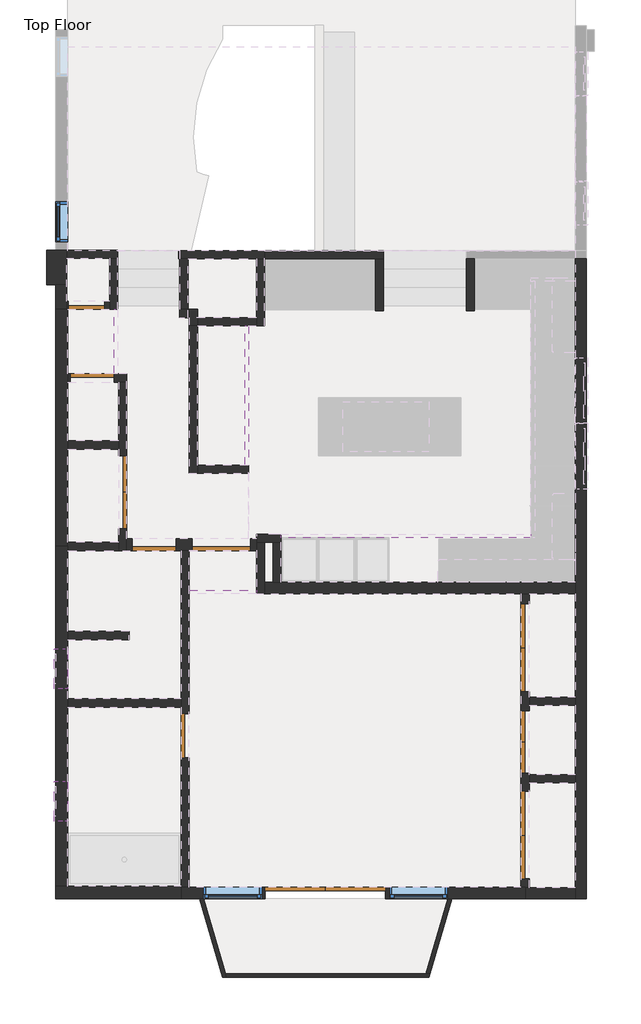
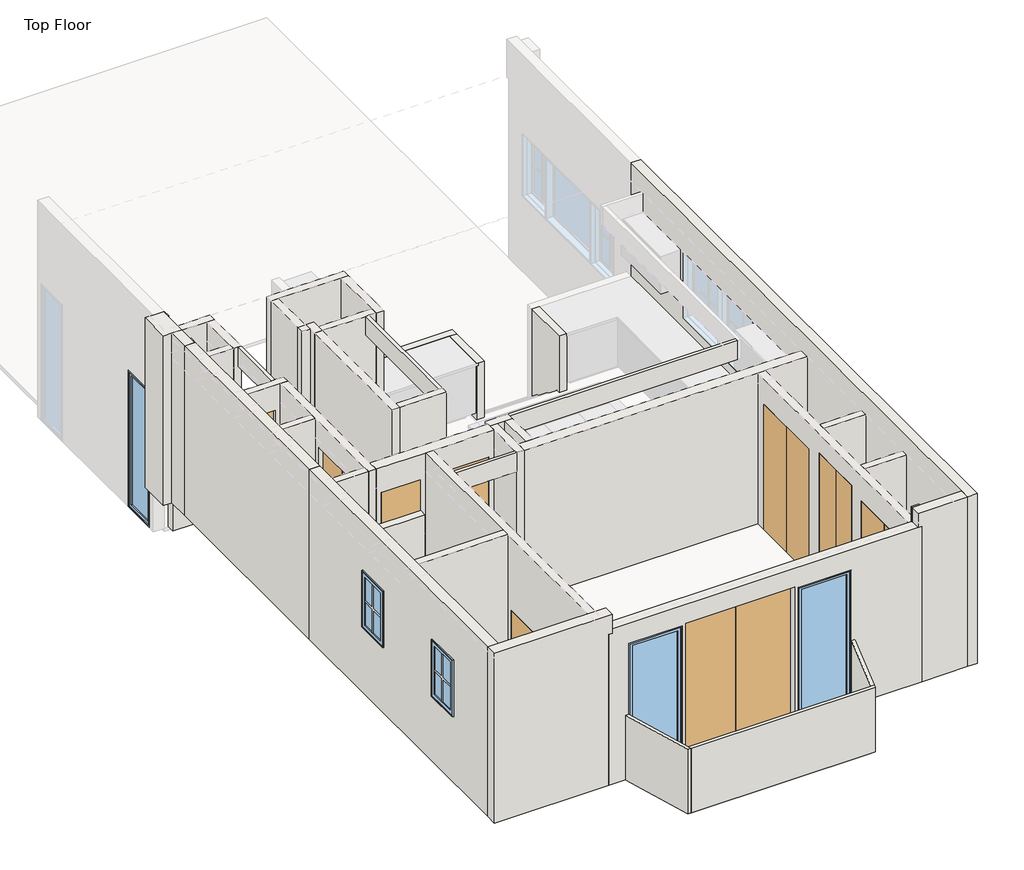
# One storey, part 1 of 3: 44 walls, 10 doors, 5 windows.
"""IFC4 building model written with IfcOpenShell, lengths in millimetres."""

from ifc_helpers import new_model, si_unit, frame, origin, place, context, project, spatial, polyline, outline, extrude, faceted_brep, transform, mapped, element, save
from components import door_e654672a, door_2_e783abe8, door_b2eef15f, door_c73edc89, door_aef79686, door_2963ea5e, door_8ab78930, door_12ea99da, door_5da72c95, default_1_1963fb7e, default_1_7b61a2f6, default_1_9abc27e4, default_1_fa66b400

model = new_model("IFC4")

# Units and contexts
model_context = context("Model", 3, world=origin())
ifc_project = project(units=[si_unit("LENGTHUNIT", "METRE", prefix="MILLI")], contexts=[model_context])

# Site, building, storey
site = spatial("IfcSite", under=ifc_project)
building = spatial("IfcBuilding", under=site)
storey = spatial("IfcBuildingStorey", under=building, Name="Top Floor", Elevation=2743.2)

# Doors
placement = place(None, origin())
door_shape = door_e654672a(model_context)
element("IfcDoor", 1, ObjectType="Planitar - Single Door_Flush Panel : 1'-8\" x 6'-8\" 45", at=placement, inside=storey, context=model_context, shape_type="MappedRepresentation", body=[
    mapped(door_shape, transform((-5683.25, 2870.2, 3505.2), x_axis=(-1.0, 0.0, 0.0), y_axis=(0.0, -1.0, 0.0), z_axis=(0.0, 0.0, 1.0))),
])
door_2_shape = door_2_e783abe8(model_context)
element("IfcDoor", 2, ObjectType="Planitar - Double Door_Flush Panel : 2", at=placement, inside=storey, context=model_context, shape_type="MappedRepresentation", body=[
    mapped(door_2_shape, transform((419.1, -3201.9875, 3505.2), x_axis=(0.0, 1.0, 0.0), y_axis=(-1.0, 0.0, 0.0), z_axis=(0.0, 0.0, 1.0))),
])
door_3_shape = door_b2eef15f(model_context)
element("IfcDoor", 3, ObjectType="Planitar - Single Door_Flush Panel : 2'-0\" x 6'-8\"", at=placement, inside=storey, context=model_context, shape_type="MappedRepresentation", body=[
    mapped(door_3_shape, transform((-5607.05, 1860.55, 3505.2), x_axis=(-1.0, 0.0, 0.0), y_axis=(0.0, -1.0, 0.0), z_axis=(0.0, 0.0, 1.0))),
])
door_4_shape = door_c73edc89(model_context)
element("IfcDoor", 4, ObjectType="Planitar - Single Door_Flush Panel : 2'-0\" x 6'-8\"", at=placement, inside=storey, context=model_context, shape_type="MappedRepresentation", body=[
    mapped(door_4_shape, transform((-4743.45, -457.2, 3505.2), x_axis=(1.0, 0.0, 0.0), y_axis=(0.0, 1.0, 0.0), z_axis=(0.0, 0.0, 1.0))),
])
door_5_shape = door_aef79686(model_context)
element("IfcDoor", 5, ObjectType="Planitar - Single Door_Flush Panel : 2'-0\" x 6'-8\"", at=placement, inside=storey, context=model_context, shape_type="MappedRepresentation", body=[
    mapped(door_5_shape, transform((-4311.65, -3117.85, 2743.2), x_axis=(0.0, 1.0, 0.0), y_axis=(-1.0, 0.0, 0.0), z_axis=(0.0, 0.0, 1.0))),
])
door_6_shape = door_2963ea5e(model_context)
element("IfcDoor", 6, ObjectType="Planitar - Single Door_Flush Panel : 2'-8\" x 6'-8\"", at=placement, inside=storey, context=model_context, shape_type="MappedRepresentation", body=[
    mapped(door_6_shape, transform((-3810.0, -457.2, 3505.2), x_axis=(-1.0, 0.0, 0.0), y_axis=(0.0, -1.0, 0.0), z_axis=(0.0, 0.0, 1.0))),
])
door_7_shape = door_8ab78930(model_context)
element("IfcDoor", 7, ObjectType="Planitar - Double Door_Flush Panel : 3'-4\" x 6'-8\"", at=placement, inside=storey, context=model_context, shape_type="MappedRepresentation", body=[
    mapped(door_7_shape, transform((-5181.6, 268.2875, 3505.2), x_axis=(0.0, -1.0, 0.0), y_axis=(1.0, 0.0, 0.0), z_axis=(0.0, 0.0, 1.0))),
])
door_8_shape = door_12ea99da(model_context)
element("IfcDoor", 8, ObjectType="Planitar - Double Door_Flush Panel : 4'-0\" x 6'-8\"", at=placement, inside=storey, context=model_context, shape_type="MappedRepresentation", body=[
    mapped(door_8_shape, transform((419.1, -4496.196875, 3505.2), x_axis=(0.0, 1.0, 0.0), y_axis=(-1.0, 0.0, 0.0), z_axis=(0.0, 0.0, 1.0))),
])
element("IfcDoor", 9, ObjectType="Planitar - Double Door_Flush Panel : 4'-0\" x 6'-8\"", at=placement, inside=storey, context=model_context, shape_type="MappedRepresentation", body=[
    mapped(door_8_shape, transform((419.1, -1891.109375, 3505.2), x_axis=(0.0, 1.0, 0.0), y_axis=(-1.0, 0.0, 0.0), z_axis=(0.0, 0.0, 1.0))),
])
door_9_shape = door_5da72c95(model_context)
element("IfcDoor", 10, ObjectType="Planitar - Double Door_Flush Panel : 5'-6\" x 6'-8\"", at=placement, inside=storey, context=model_context, shape_type="MappedRepresentation", body=[
    mapped(door_9_shape, transform((-2361.009375, -5302.25, 3505.2), x_axis=(1.0, 0.0, 0.0), y_axis=(0.0, 1.0, 0.0), z_axis=(0.0, 0.0, 1.0))),
])

# Walls
element("IfcWall", 11, ObjectType="Planitar - Generic 6 1/2\"", at=placement, inside=storey, context=model_context, shape_type="Brep", body=[
    faceted_brep([(-5949.95, -482.6, 3505.2), (-5949.95, -425.45, 3505.2), (-5949.95, 869.95, 3505.2), (-5949.95, 984.25, 3505.2), (-5949.95, 1803.4, 3505.2), (-5949.95, 1917.7, 3505.2), (-5949.95, 2813.05, 3505.2), (-5949.95, 2813.05, 5943.6), (-5949.95, 2813.05, 6248.4), (-5949.95, -482.6, 6248.4), (-6115.05, -482.6, 3505.2), (-6115.05, -482.6, 6248.4), (-6115.05, 2813.05, 6248.4), (-6115.05, 2813.05, 3505.2), (-5962.65, 2813.05, 3505.2), (-5962.65, 2813.05, 6248.4)], [[[0, 1, 2, 3, 4, 5, 6, 7, 8, 9]], [[10, 11, 12, 13]], [[6, 5, 4, 3, 2, 1, 0, 10, 13, 14]], [[9, 8, 15, 12, 11]], [[0, 9, 11, 10]], [[8, 7, 6, 14, 13, 12, 15]]]),
])
element("IfcWall", 12, ObjectType="Planitar - Generic 6\"", at=placement, inside=storey, context=model_context, shape_type="Brep", body=[
    faceted_brep([(1117.6, -5232.4, 3505.2), (476.25, -5232.4, 3505.2), (419.1, -5232.4, 3505.2), (419.1, -5232.4, 6014.4587629), (361.95, -5232.4, 6014.4587629), (361.95, -5232.4, 6248.4), (476.25, -5232.4, 6248.4), (1117.6, -5232.4, 6248.4), (1117.6, -5384.8, 3505.2), (1117.6, -5384.8, 6248.4), (361.95, -5384.8, 6248.4), (361.95, -5384.8, 6014.4587629), (419.1, -5384.8, 6014.4587629), (419.1, -5384.8, 3505.2)], [[[0, 1, 2, 3, 4, 5, 6, 7]], [[8, 9, 10, 11, 12, 13]], [[2, 1, 0, 8, 13]], [[7, 6, 5, 10, 9]], [[0, 7, 9, 8]], [[3, 2, 13, 12]], [[11, 4, 3, 12]], [[5, 4, 11, 10]]]),
])
element("IfcWall", 13, ObjectType="Planitar - Generic 6 1/2\"", at=placement, inside=storey, context=model_context, shape_type="Brep", body=[
    faceted_brep([(-5949.95, -5207.0, 3505.2), (-5949.95, -2717.8, 3505.2), (-5949.95, -2603.5, 3505.2), (-5949.95, -1778.0, 3505.2), (-5949.95, -1663.7, 3505.2), (-5949.95, -539.75, 3505.2), (-5949.95, -482.6, 3505.2), (-5949.95, -482.6, 6248.4), (-5949.95, -5207.0, 6248.4), (-5949.95, -3746.5, 5486.4), (-5949.95, -3746.5, 4572.0), (-5949.95, -4305.3, 4572.0), (-5949.95, -4305.3, 5486.4), (-5949.95, -2463.8, 4572.0), (-5949.95, -2463.8, 5486.4), (-5949.95, -1905.0, 5486.4), (-5949.95, -1905.0, 4572.0), (-6115.05, -482.6, 3505.2), (-6115.05, -5207.0, 3505.2), (-6115.05, -5207.0, 6248.4), (-6115.05, -482.6, 6248.4), (-6115.05, -3746.5, 4572.0), (-6115.05, -3746.5, 5486.4), (-6115.05, -4305.3, 5486.4), (-6115.05, -4305.3, 4572.0), (-6115.05, -2463.8, 5486.4), (-6115.05, -2463.8, 4572.0), (-6115.05, -1905.0, 4572.0), (-6115.05, -1905.0, 5486.4)], [[[0, 1, 2, 3, 4, 5, 6, 7, 8], [9, 10, 11, 12], [13, 14, 15, 16]], [[17, 18, 19, 20], [21, 22, 23, 24], [25, 26, 27, 28]], [[6, 5, 4, 3, 2, 1, 0, 18, 17]], [[7, 6, 17, 20]], [[8, 7, 20, 19]], [[0, 8, 19, 18]], [[10, 9, 22, 21]], [[11, 10, 21, 24]], [[12, 11, 24, 23]], [[9, 12, 23, 22]], [[25, 14, 13, 26]], [[26, 13, 16, 27]], [[27, 16, 15, 28]], [[14, 25, 28, 15]]]),
])
element("IfcWall", 14, ObjectType="Planitar - Generic 6\"", at=placement, inside=storey, context=model_context, shape_type="Brep", body=[
    faceted_brep([(1117.6, 3517.9, 3505.2), (1117.6, -977.9, 3505.2), (1117.6, -1143.0, 3505.2), (1117.6, -2578.1, 3505.2), (1117.6, -2692.4, 3505.2), (1117.6, -3657.6, 3505.2), (1117.6, -3771.9, 3505.2), (1117.6, -5232.4, 3505.2), (1117.6, -5384.8, 3505.2), (1117.6, -5384.8, 6248.4), (1117.6, -5232.4, 6248.4), (1117.6, 3524.25, 6248.4), (1117.6, 3524.25, 4419.6), (1117.6, 3517.9, 4419.6), (1117.6, 312.9359375, 5638.8), (1117.6, 312.9359375, 4572.0), (1117.6, 2141.7359375, 4572.0), (1117.6, 2141.7359375, 5638.8), (1270.0, -5384.8, 3505.2), (1270.0, -2863.85, 3505.2), (1270.0, 3517.9, 3505.2), (1270.0, 3517.9, 4419.6), (1270.0, 3524.25, 4419.6), (1270.0, 3524.25, 6248.4), (1270.0, -5384.8, 6248.4), (1270.0, 312.9359375, 4572.0), (1270.0, 312.9359375, 5638.8), (1270.0, 2141.7359375, 5638.8), (1270.0, 2141.7359375, 4572.0)], [[[0, 1, 2, 3, 4, 5, 6, 7, 8, 9, 10, 11, 12, 13], [14, 15, 16, 17]], [[18, 19, 20, 21, 22, 23, 24], [25, 26, 27, 28]], [[8, 7, 6, 5, 4, 3, 2, 1, 0, 20, 19, 18]], [[9, 24, 23, 11, 10]], [[9, 8, 18, 24]], [[21, 13, 12, 22]], [[0, 13, 21, 20]], [[28, 16, 15, 25]], [[15, 14, 26, 25]], [[17, 27, 26, 14]], [[16, 28, 27, 17]], [[12, 11, 23, 22]]]),
])
element("IfcWall", 15, ObjectType="Planitar - Generic 6\"", at=placement, inside=storey, context=model_context, shape_type="Brep", body=[
    faceted_brep([(-5962.65, 2813.05, 3505.2), (-5962.65, 2927.35, 3505.2), (-5962.65, 3155.95, 3505.2), (-5962.65, 3155.95, 6248.4), (-5962.65, 2927.35, 6248.4), (-5962.65, 2813.05, 6248.4), (-6115.05, 2813.05, 3505.2), (-6115.05, 2813.05, 6248.4), (-6115.05, 3155.95, 6248.4), (-6115.05, 3155.95, 3505.2)], [[[0, 1, 2, 3, 4, 5]], [[6, 7, 8, 9]], [[2, 1, 0, 6, 9]], [[3, 2, 9, 8]], [[5, 4, 3, 8, 7]], [[0, 5, 7, 6]]]),
])
element("IfcWall", 16, ObjectType="Planitar - Generic 4 1/2\"", at=placement, inside=storey, context=model_context, shape_type="Brep", body=[
    faceted_brep([(-5886.45, 3524.25, 2743.2), (-5251.45, 3524.25, 2743.2), (-5251.45, 3524.25, 3505.2), (-5251.45, 3524.25, 5943.6), (-5365.75, 3524.25, 5943.6), (-5949.95, 3524.25, 5943.6), (-5949.95, 3524.25, 6248.4), (-5962.65, 3524.25, 6248.4), (-5962.65, 3524.25, 3505.2), (-5886.45, 3524.25, 3505.2), (-5886.45, 3638.55, 2743.2), (-5886.45, 3638.55, 3505.2), (-5962.65, 3638.55, 3505.2), (-5962.65, 3638.55, 6248.4), (-5949.95, 3638.55, 6248.4), (-5949.95, 3638.55, 5943.6), (-5251.45, 3638.55, 5943.6), (-5251.45, 3638.55, 2743.2), (-5886.45, 3581.4, 2743.2), (-5886.45, 3606.8, 2743.2), (-5886.45, 3632.2, 2743.2)], [[[0, 1, 2, 3, 4, 5, 6, 7, 8, 9]], [[10, 11, 12, 13, 14, 15, 16, 17]], [[1, 0, 18, 19, 20, 10, 17]], [[3, 2, 1, 17, 16]], [[8, 12, 11, 9]], [[0, 9, 11, 10, 20, 19, 18]], [[8, 7, 13, 12]], [[7, 6, 14, 13]], [[14, 6, 5, 15]], [[5, 4, 3, 16, 15]]]),
])
element("IfcWall", 17, ObjectType="Planitar - Generic 4 1/2\"", at=placement, inside=storey, context=model_context, shape_type="Brep", body=[
    faceted_brep([(-5365.75, 3524.25, 3505.2), (-5365.75, 2927.35, 3505.2), (-5365.75, 2813.05, 3505.2), (-5365.75, 2813.05, 5943.6), (-5365.75, 2927.35, 5943.6), (-5365.75, 3524.25, 5943.6), (-5251.45, 3524.25, 3505.2), (-5251.45, 3524.25, 5943.6), (-5251.45, 2813.05, 5943.6), (-5251.45, 2813.05, 5638.8), (-5251.45, 2813.05, 3505.2), (-5302.25, 2813.05, 5943.6)], [[[0, 1, 2, 3, 4, 5]], [[6, 7, 8, 9, 10]], [[2, 1, 0, 6, 10]], [[0, 5, 7, 6]], [[2, 10, 9, 8, 11, 3]], [[5, 4, 3, 11, 8, 7]]]),
])
element("IfcWall", 18, ObjectType="Planitar - Generic 4 1/2\"", at=placement, inside=storey, context=model_context, shape_type="Brep", body=[
    faceted_brep([(-5962.65, 2927.35, 3505.2), (-5962.65, 2927.35, 6248.4), (-5949.95, 2927.35, 6248.4), (-5949.95, 2927.35, 5943.6), (-5365.75, 2927.35, 5943.6), (-5365.75, 2927.35, 3505.2), (-5429.25, 2927.35, 3505.2), (-5429.25, 2927.35, 5537.2), (-5937.25, 2927.35, 5537.2), (-5937.25, 2927.35, 3505.2), (-5962.65, 2813.05, 6248.4), (-5962.65, 2813.05, 3505.2), (-5949.95, 2813.05, 3505.2), (-5937.25, 2813.05, 3505.2), (-5937.25, 2813.05, 5537.2), (-5429.25, 2813.05, 5537.2), (-5429.25, 2813.05, 3505.2), (-5365.75, 2813.05, 3505.2), (-5365.75, 2813.05, 5943.6), (-5949.95, 2813.05, 5943.6), (-5949.95, 2813.05, 6248.4)], [[[0, 1, 2, 3, 4, 5, 6, 7, 8, 9]], [[10, 11, 12, 13, 14, 15, 16, 17, 18, 19, 20]], [[5, 17, 16, 6]], [[11, 0, 9, 13, 12]], [[1, 0, 11, 10]], [[8, 14, 13, 9]], [[14, 8, 7, 15]], [[15, 7, 6, 16]], [[17, 5, 4, 18]], [[1, 10, 20, 2]], [[2, 20, 19, 3]], [[4, 3, 19, 18]]]),
])
element("IfcWall", 19, ObjectType="Planitar - Generic 4 1/2\"", at=placement, inside=storey, context=model_context, shape_type="Brep", body=[
    faceted_brep([(-4406.9, 3517.9, 2743.2), (-3263.9, 3517.9, 2743.2), (-3263.9, 3517.9, 3505.2), (-3206.75, 3517.9, 3505.2), (-3206.75, 3517.9, 4419.6), (-3206.75, 3517.9, 5943.6), (-3321.05, 3517.9, 5943.6), (-4273.55, 3517.9, 5943.6), (-4387.85, 3517.9, 5943.6), (-4387.85, 3517.9, 3505.2), (-4406.9, 3517.9, 3505.2), (-4406.9, 3632.2, 2743.2), (-4406.9, 3632.2, 3505.2), (-4387.85, 3632.2, 3505.2), (-4387.85, 3632.2, 5943.6), (-3206.75, 3632.2, 5943.6), (-3206.75, 3632.2, 4419.6), (-3206.75, 3632.2, 3505.2), (-3263.9, 3632.2, 3505.2), (-3263.9, 3632.2, 2743.2)], [[[0, 1, 2, 3, 4, 5, 6, 7, 8, 9, 10]], [[11, 12, 13, 14, 15, 16, 17, 18, 19]], [[1, 0, 11, 19]], [[2, 1, 19, 18]], [[3, 17, 16, 15, 5, 4]], [[9, 13, 12, 10]], [[0, 10, 12, 11]], [[9, 8, 14, 13]], [[17, 3, 2, 18]], [[8, 7, 6, 5, 15, 14]]]),
])
element("IfcWall", 20, ObjectType="Planitar - Generic 4 1/2\"", at=placement, inside=storey, context=model_context, shape_type="Brep", body=[
    faceted_brep([(-3321.05, 3517.9, 5943.6), (-3321.05, 3517.9, 3505.2), (-3321.05, 2698.75, 3505.2), (-3321.05, 2584.45, 3505.2), (-3321.05, 2584.45, 5943.6), (-3321.05, 2698.75, 5943.6), (-3206.75, 3517.9, 3505.2), (-3206.75, 3517.9, 5943.6), (-3206.75, 2584.45, 5943.6), (-3206.75, 2584.45, 3505.2), (-3263.9, 3517.9, 3505.2)], [[[0, 1, 2, 3, 4, 5]], [[6, 7, 8, 9]], [[3, 2, 1, 10, 6, 9]], [[4, 3, 9, 8]], [[0, 7, 6, 10, 1]], [[0, 5, 4, 8, 7]]]),
])
element("IfcWall", 21, ObjectType="Planitar - Generic 4 1/2\"", at=placement, inside=storey, context=model_context, shape_type="Brep", body=[
    faceted_brep([(-3321.05, 2698.75, 3505.2), (-4140.2, 2698.75, 3505.2), (-4140.2, 2698.75, 5943.6), (-3321.05, 2698.75, 5943.6), (-3321.05, 2584.45, 3505.2), (-3321.05, 2584.45, 5943.6), (-3429.0, 2584.45, 5943.6), (-3479.8, 2584.45, 5943.6), (-4140.2, 2584.45, 5943.6), (-4140.2, 2584.45, 3505.2)], [[[0, 1, 2, 3]], [[4, 5, 6, 7, 8, 9]], [[1, 0, 4, 9]], [[0, 3, 5, 4]], [[2, 1, 9, 8]], [[3, 2, 8, 7, 6, 5]]]),
])
element("IfcWall", 22, ObjectType="Planitar - Generic 4 1/2\"", at=placement, inside=storey, context=model_context, shape_type="Brep", body=[
    faceted_brep([(-4140.2, 2584.45, 3505.2), (-4140.2, 2698.75, 3505.2), (-4140.2, 2813.05, 3505.2), (-4140.2, 2813.05, 5943.6), (-4140.2, 2698.75, 5943.6), (-4140.2, 2584.45, 5943.6), (-4254.5, 2584.45, 3505.2), (-4254.5, 2584.45, 5943.6), (-4254.5, 2698.75, 5943.6), (-4254.5, 2813.05, 5943.6), (-4254.5, 2813.05, 3505.2), (-4254.5, 2698.75, 3505.2)], [[[0, 1, 2, 3, 4, 5]], [[6, 7, 8, 9, 10, 11]], [[2, 1, 0, 6, 11, 10]], [[0, 5, 7, 6]], [[3, 2, 10, 9]], [[5, 4, 3, 9, 8, 7]]]),
])
element("IfcWall", 23, ObjectType="Planitar - Generic 4 1/2\"", at=placement, inside=storey, context=model_context, shape_type="Brep", body=[
    faceted_brep([(-4387.85, 3517.9, 3505.2), (-4387.85, 2813.05, 3505.2), (-4387.85, 2813.05, 5943.6), (-4387.85, 3517.9, 5943.6), (-4273.55, 3517.9, 3505.2), (-4273.55, 3517.9, 5943.6), (-4273.55, 2813.05, 5943.6), (-4273.55, 2813.05, 3505.2), (-4292.6, 3517.9, 3505.2)], [[[0, 1, 2, 3]], [[4, 5, 6, 7]], [[1, 0, 8, 4, 7]], [[0, 3, 5, 4, 8]], [[2, 1, 7, 6]], [[3, 2, 6, 5]]]),
])
element("IfcWall", 24, ObjectType="Planitar - Generic 4 1/2\"", at=placement, inside=storey, context=model_context, shape_type="Brep", body=[
    faceted_brep([(-4387.85, 2698.75, 3505.2), (-4254.5, 2698.75, 3505.2), (-4254.5, 2698.75, 5943.6), (-4387.85, 2698.75, 5943.6), (-4387.85, 2813.05, 3505.2), (-4387.85, 2813.05, 5943.6), (-4273.55, 2813.05, 5943.6), (-4254.5, 2813.05, 5943.6), (-4254.5, 2813.05, 3505.2), (-4273.55, 2813.05, 3505.2)], [[[0, 1, 2, 3]], [[4, 5, 6, 7, 8, 9]], [[1, 0, 4, 9, 8]], [[0, 3, 5, 4]], [[2, 1, 8, 7]], [[3, 2, 7, 6, 5]]]),
])
element("IfcWall", 25, ObjectType="Planitar - Generic 4 1/2\"", at=placement, inside=storey, context=model_context, shape_type="Brep", body=[
    faceted_brep([(-4254.5, 2584.45, 3505.2), (-4254.5, 533.4, 3505.2), (-4254.5, 533.4, 5943.6), (-4254.5, 2584.45, 5943.6), (-4140.2, 2584.45, 3505.2), (-4140.2, 2584.45, 5943.6), (-4140.2, 647.7, 5943.6), (-4140.2, 533.4, 5943.6), (-4140.2, 533.4, 3505.2), (-4140.2, 647.7, 3505.2)], [[[0, 1, 2, 3]], [[4, 5, 6, 7, 8, 9]], [[1, 0, 4, 9, 8]], [[0, 3, 5, 4]], [[2, 1, 8, 7]], [[3, 2, 7, 6, 5]]]),
])
element("IfcWall", 26, ObjectType="Planitar - Generic 4 1/2\"", at=placement, inside=storey, context=model_context, shape_type="Brep", body=[
    faceted_brep([(-4140.2, 533.4, 3505.2), (-3429.0, 533.4, 3505.2), (-3429.0, 533.4, 5943.6), (-4140.2, 533.4, 5943.6), (-4140.2, 647.7, 3505.2), (-4140.2, 647.7, 5943.6), (-3479.8, 647.7, 5943.6), (-3429.0, 647.7, 5943.6), (-3429.0, 647.7, 5638.8), (-3429.0, 647.7, 3505.2)], [[[0, 1, 2, 3]], [[4, 5, 6, 7, 8, 9]], [[1, 0, 4, 9]], [[0, 3, 5, 4]], [[2, 1, 9, 8, 7]], [[3, 2, 7, 6, 5]]]),
])
element("IfcWall", 27, ObjectType="Planitar - Generic 4 1/2\"", at=placement, inside=storey, context=model_context, shape_type="SweptSolid", body=[
    extrude(outline(polyline([(-5238.75, 869.95), (-5949.95, 869.95), (-5949.95, 984.25), (-5238.75, 984.25), (-5238.75, 869.95)])), frame((0.0, 0.0, 3505.2), z_axis=(0.0, 0.0, 1.0), x_axis=(1.0, 0.0, 0.0)), (0.0, 0.0, 1.0), 2438.4),
])
element("IfcWall", 28, ObjectType="Planitar - Generic 4 1/2\"", at=placement, inside=storey, context=model_context, shape_type="Brep", body=[
    faceted_brep([(-5949.95, 1803.4, 5943.6), (-5949.95, 1803.4, 3505.2), (-5911.85, 1803.4, 3505.2), (-5911.85, 1803.4, 5537.2), (-5302.25, 1803.4, 5537.2), (-5302.25, 1803.4, 3505.2), (-5238.75, 1803.4, 3505.2), (-5124.45, 1803.4, 3505.2), (-5124.45, 1803.4, 5943.6), (-5238.75, 1803.4, 5943.6), (-5949.95, 1917.7, 3505.2), (-5949.95, 1917.7, 5943.6), (-5302.25, 1917.7, 5943.6), (-5251.45, 1917.7, 5943.6), (-5124.45, 1917.7, 5943.6), (-5124.45, 1917.7, 3505.2), (-5302.25, 1917.7, 3505.2), (-5302.25, 1917.7, 5537.2), (-5911.85, 1917.7, 5537.2), (-5911.85, 1917.7, 3505.2)], [[[0, 1, 2, 3, 4, 5, 6, 7, 8, 9]], [[10, 11, 12, 13, 14, 15, 16, 17, 18, 19]], [[1, 10, 19, 2]], [[15, 7, 6, 5, 16]], [[1, 0, 11, 10]], [[8, 7, 15, 14]], [[18, 3, 2, 19]], [[3, 18, 17, 4]], [[4, 17, 16, 5]], [[0, 9, 8, 14, 13, 12, 11]]]),
])
element("IfcWall", 29, ObjectType="Planitar - Generic 4 1/2\"", at=placement, inside=storey, context=model_context, shape_type="Brep", body=[
    faceted_brep([(-5238.75, 1803.4, 5943.6), (-5238.75, 1803.4, 3505.2), (-5238.75, 984.25, 3505.2), (-5238.75, 869.95, 3505.2), (-5238.75, 776.2875, 3505.2), (-5238.75, 776.2875, 5537.2), (-5238.75, -239.7125, 5537.2), (-5238.75, -239.7125, 3505.2), (-5238.75, -425.45, 3505.2), (-5238.75, -539.75, 3505.2), (-5238.75, -539.75, 5943.6), (-5238.75, -425.45, 5943.6), (-5238.75, 869.95, 5943.6), (-5238.75, 984.25, 5943.6), (-5124.45, 1803.4, 3505.2), (-5124.45, 1803.4, 5943.6), (-5124.45, -374.65, 5943.6), (-5124.45, -539.75, 5943.6), (-5124.45, -539.75, 3505.2), (-5124.45, -374.65, 3505.2), (-5124.45, -239.7125, 3505.2), (-5124.45, -239.7125, 5537.2), (-5124.45, 776.2875, 5537.2), (-5124.45, 776.2875, 3505.2)], [[[0, 1, 2, 3, 4, 5, 6, 7, 8, 9, 10, 11, 12, 13]], [[14, 15, 16, 17, 18, 19, 20, 21, 22, 23]], [[1, 14, 23, 4, 3, 2]], [[18, 9, 8, 7, 20, 19]], [[1, 0, 15, 14]], [[10, 9, 18, 17]], [[6, 21, 20, 7]], [[21, 6, 5, 22]], [[22, 5, 4, 23]], [[0, 13, 12, 11, 10, 17, 16, 15]]]),
])
element("IfcWall", 30, ObjectType="Planitar - Generic 4 1/2\"", at=placement, inside=storey, context=model_context, shape_type="Brep", body=[
    faceted_brep([(-5949.95, -539.75, 3505.2), (-5238.75, -539.75, 3505.2), (-5238.75, -539.75, 5943.6), (-5949.95, -539.75, 5943.6), (-5949.95, -425.45, 3505.2), (-5949.95, -425.45, 5943.6), (-5238.75, -425.45, 5943.6), (-5238.75, -425.45, 3505.2), (-5949.95, -482.6, 3505.2)], [[[0, 1, 2, 3]], [[4, 5, 6, 7]], [[1, 0, 8, 4, 7]], [[0, 3, 5, 4, 8]], [[2, 1, 7, 6]], [[3, 2, 6, 5]]]),
])
element("IfcWall", 31, ObjectType="Planitar - Generic 4 1/2\"", at=placement, inside=storey, context=model_context, shape_type="Brep", body=[
    faceted_brep([(-3321.05, -425.45, 3505.2), (-3206.75, -425.45, 3505.2), (-3092.45, -425.45, 3505.2), (-2978.15, -425.45, 3505.2), (-2978.15, -425.45, 5943.6), (-3092.45, -425.45, 5943.6), (-3206.75, -425.45, 5943.6), (-3321.05, -425.45, 5943.6), (-3321.05, -311.15, 3505.2), (-3321.05, -311.15, 5943.6), (-2978.15, -311.15, 5943.6), (-2978.15, -311.15, 5638.8), (-2978.15, -311.15, 3505.2), (-3321.05, -374.65, 3505.2), (-3321.05, -374.65, 5943.6), (-2978.15, -361.95, 5943.6)], [[[0, 1, 2, 3, 4, 5, 6, 7]], [[8, 9, 10, 11, 12]], [[3, 2, 1, 0, 13, 8, 12]], [[0, 7, 14, 9, 8, 13]], [[3, 12, 11, 10, 15, 4]], [[7, 6, 5, 4, 15, 10, 9, 14]]]),
])
element("IfcWall", 32, ObjectType="Planitar - Generic 4 1/2\"", at=placement, inside=storey, context=model_context, shape_type="SweptSolid", body=[
    extrude(outline(polyline([(-3092.45, -977.9), (-3092.45, -425.45), (-2978.15, -425.45), (-2978.15, -977.9), (-3092.45, -977.9)])), frame((0.0, 0.0, 3505.2), z_axis=(0.0, 0.0, 1.0), x_axis=(1.0, 0.0, 0.0)), (0.0, 0.0, 1.0), 2438.4),
])
element("IfcWall", 33, ObjectType="Planitar - Generic 4 1/2\"", at=placement, inside=storey, context=model_context, shape_type="Brep", body=[
    faceted_brep([(-3206.75, -1143.0, 5943.6), (-3206.75, -1143.0, 3505.2), (-3206.75, -977.9, 3505.2), (-3206.75, -425.45, 3505.2), (-3206.75, -425.45, 5943.6), (-3206.75, -977.9, 5943.6), (-3321.05, -1143.0, 3505.2), (-3321.05, -1143.0, 5638.8), (-3321.05, -1143.0, 5943.6), (-3321.05, -1092.2, 5943.6), (-3321.05, -539.75, 5943.6), (-3321.05, -425.45, 5943.6), (-3321.05, -425.45, 3505.2), (-3321.05, -539.75, 3505.2)], [[[0, 1, 2, 3, 4, 5]], [[6, 7, 8, 9, 10, 11, 12, 13]], [[3, 2, 1, 6, 13, 12]], [[4, 3, 12, 11]], [[0, 8, 7, 6, 1]], [[0, 5, 4, 11, 10, 9, 8]]]),
])
element("IfcWall", 34, ObjectType="Planitar - Generic 4 1/2\"", at=placement, inside=storey, context=model_context, shape_type="Brep", body=[
    faceted_brep([(-4368.8, -5219.7, 5943.6), (-4368.8, -5207.0, 5943.6), (-4368.8, -2717.8, 5943.6), (-4368.8, -2603.5, 5943.6), (-4368.8, -539.75, 5943.6), (-4368.8, -539.75, 3505.2), (-4368.8, -2603.5, 3505.2), (-4368.8, -2717.8, 3505.2), (-4368.8, -2813.05, 3505.2), (-4368.8, -2813.05, 4775.2), (-4368.8, -3422.65, 4775.2), (-4368.8, -3422.65, 3505.2), (-4368.8, -5207.0, 3505.2), (-4368.8, -5219.7, 3505.2), (-4254.5, -539.75, 5943.6), (-4254.5, -1092.2, 5943.6), (-4254.5, -1143.0, 5943.6), (-4254.5, -5219.7, 5943.6), (-4254.5, -5219.7, 3505.2), (-4254.5, -3422.65, 3505.2), (-4254.5, -3422.65, 4775.2), (-4254.5, -2813.05, 4775.2), (-4254.5, -2813.05, 3505.2), (-4254.5, -539.75, 3505.2), (-4311.65, -5219.7, 5943.6)], [[[0, 1, 2, 3, 4, 5, 6, 7, 8, 9, 10, 11, 12, 13]], [[14, 15, 16, 17, 18, 19, 20, 21, 22, 23]], [[5, 23, 22, 8, 7, 6]], [[18, 13, 12, 11, 19]], [[4, 3, 2, 1, 0, 24, 17, 16, 15, 14]], [[5, 4, 14, 23]], [[21, 9, 8, 22]], [[9, 21, 20, 10]], [[10, 20, 19, 11]], [[0, 13, 18, 17, 24]]]),
])
element("IfcWall", 35, ObjectType="Planitar - Generic 4 1/2\"", at=placement, inside=storey, context=model_context, shape_type="SweptSolid", body=[
    extrude(outline(polyline([(-4368.8, -2717.8), (-5949.95, -2717.8), (-5949.95, -2603.5), (-4368.8, -2603.5), (-4368.8, -2717.8)])), frame((0.0, 0.0, 3505.2), z_axis=(0.0, 0.0, 1.0), x_axis=(1.0, 0.0, 0.0)), (0.0, 0.0, 1.0), 2438.4),
])
element("IfcWall", 36, ObjectType="Planitar - Generic 7\"", at=placement, inside=storey, context=model_context, shape_type="Brep", body=[
    faceted_brep([(-4368.8, -5207.0, 3505.2), (-5949.95, -5207.0, 3505.2), (-6115.05, -5207.0, 3505.2), (-6115.05, -5207.0, 6248.4), (-5949.95, -5207.0, 6248.4), (-4311.65, -5207.0, 6248.4), (-4311.65, -5207.0, 6014.4587629), (-4311.65, -5207.0, 5943.6), (-4368.8, -5207.0, 5943.6), (-4368.8, -5384.8, 3505.2), (-4368.8, -5384.8, 5943.6), (-4311.65, -5384.8, 5943.6), (-4311.65, -5384.8, 6014.4587629), (-4311.65, -5384.8, 6248.4), (-6115.05, -5384.8, 6248.4), (-6115.05, -5384.8, 3505.2), (-4368.8, -5219.7, 3505.2), (-4311.65, -5219.7, 5943.6), (-4368.8, -5219.7, 5943.6)], [[[0, 1, 2, 3, 4, 5, 6, 7, 8]], [[9, 10, 11, 12, 13, 14, 15]], [[3, 2, 15, 14]], [[2, 1, 0, 16, 9, 15]], [[5, 4, 3, 14, 13]], [[7, 17, 11, 10, 18, 8]], [[5, 13, 12, 11, 17, 7, 6]], [[0, 8, 18, 10, 9, 16]]]),
])
element("IfcWall", 37, ObjectType="Planitar - Generic 6 1/2\"", at=placement, inside=storey, context=model_context, shape_type="Brep", body=[
    faceted_brep([(-4311.65, -5219.7, 6014.4587629), (361.95, -5219.7, 6014.4587629), (419.1, -5219.7, 6014.4587629), (419.1, -5219.7, 3505.2), (361.95, -5219.7, 3505.2), (-658.8125, -5219.7, 3505.2), (-658.8125, -5219.7, 5689.6), (-1471.6125, -5219.7, 5689.6), (-1471.6125, -5219.7, 3505.2), (-1522.809375, -5219.7, 3505.2), (-1522.809375, -5219.7, 5715.0), (-3199.209375, -5219.7, 5715.0), (-3199.209375, -5219.7, 3505.2), (-3244.05625, -5219.7, 3505.2), (-3244.05625, -5219.7, 5689.6), (-4056.85625, -5219.7, 5689.6), (-4056.85625, -5219.7, 3505.2), (-4254.5, -5219.7, 3505.2), (-4368.8, -5219.7, 3505.2), (-4368.8, -5219.7, 5943.6), (-4311.65, -5219.7, 5943.6), (419.1, -5384.8, 6014.4587629), (361.95, -5384.8, 6014.4587629), (-603.0990287, -5384.8, 6014.4587629), (-3924.5283871, -5384.8, 6014.4587629), (-4311.65, -5384.8, 6014.4587629), (-4311.65, -5384.8, 5943.6), (-4368.8, -5384.8, 5943.6), (-4368.8, -5384.8, 3505.2), (-4109.7873952, -5384.8, 3505.2), (-4056.85625, -5384.8, 3505.2), (-4056.85625, -5384.8, 5689.6), (-3244.05625, -5384.8, 5689.6), (-3244.05625, -5384.8, 3505.2), (-3199.209375, -5384.8, 3505.2), (-3199.209375, -5384.8, 5715.0), (-1522.809375, -5384.8, 5715.0), (-1522.809375, -5384.8, 3505.2), (-1471.6125, -5384.8, 3505.2), (-1471.6125, -5384.8, 5689.6), (-658.8125, -5384.8, 5689.6), (-658.8125, -5384.8, 3505.2), (-656.0301739, -5384.8, 3505.2), (-603.0990287, -5384.8, 3505.2), (419.1, -5384.8, 3505.2), (419.1, -5232.4, 3505.2), (419.1, -5232.4, 6014.4587629)], [[[0, 1, 2, 3, 4, 5, 6, 7, 8, 9, 10, 11, 12, 13, 14, 15, 16, 17, 18, 19, 20]], [[21, 22, 23, 24, 25, 26, 27, 28, 29, 30, 31, 32, 33, 34, 35, 36, 37, 38, 39, 40, 41, 42, 43, 44]], [[3, 45, 44, 43, 42, 41, 5, 4]], [[33, 13, 12, 34]], [[18, 17, 16, 30, 29, 28]], [[8, 38, 37, 9]], [[2, 1, 0, 25, 24, 23, 22, 21, 46]], [[3, 2, 46, 21, 44, 45]], [[32, 14, 13, 33]], [[14, 32, 31, 15]], [[15, 31, 30, 16]], [[40, 6, 5, 41]], [[6, 40, 39, 7]], [[7, 39, 38, 8]], [[36, 10, 9, 37]], [[10, 36, 35, 11]], [[11, 35, 34, 12]], [[25, 0, 20, 26]], [[26, 20, 19, 27]], [[19, 18, 28, 27]]]),
])
element("IfcWall", 38, ObjectType="Planitar - Generic 4 1/2\"", at=placement, inside=storey, context=model_context, shape_type="Brep", body=[
    faceted_brep([(476.25, -1143.0, 3505.2), (476.25, -1143.0, 5943.6), (476.25, -2578.1, 5943.6), (476.25, -2692.4, 5943.6), (476.25, -3657.6, 5943.6), (476.25, -3771.9, 5943.6), (476.25, -5207.0, 5943.6), (476.25, -5207.0, 6248.4), (476.25, -5232.4, 6248.4), (476.25, -5232.4, 6014.4587629), (476.25, -5232.4, 3505.2), (476.25, -5105.796875, 3505.2), (476.25, -5105.796875, 5537.2), (476.25, -3886.596875, 5537.2), (476.25, -3886.596875, 3505.2), (476.25, -3771.9, 3505.2), (476.25, -3657.6, 3505.2), (476.25, -3633.7875, 3505.2), (476.25, -3633.7875, 5638.8), (476.25, -2770.1875, 5638.8), (476.25, -2770.1875, 3505.2), (476.25, -2692.4, 3505.2), (476.25, -2578.1, 3505.2), (476.25, -2500.709375, 3505.2), (476.25, -2500.709375, 5537.2), (476.25, -1281.509375, 5537.2), (476.25, -1281.509375, 3505.2), (361.95, -1143.0, 5943.6), (361.95, -1143.0, 3505.2), (361.95, -1281.509375, 3505.2), (361.95, -1281.509375, 5537.2), (361.95, -2500.709375, 5537.2), (361.95, -2500.709375, 3505.2), (361.95, -2770.1875, 3505.2), (361.95, -2770.1875, 5638.8), (361.95, -3633.7875, 5638.8), (361.95, -3633.7875, 3505.2), (361.95, -3886.596875, 3505.2), (361.95, -3886.596875, 5537.2), (361.95, -5105.796875, 5537.2), (361.95, -5105.796875, 3505.2), (361.95, -5219.7, 3505.2), (361.95, -5219.7, 6014.4587629), (361.95, -5232.4, 6014.4587629), (361.95, -5232.4, 6248.4), (361.95, -5207.0, 6248.4), (361.95, -5207.0, 6014.4587629), (361.95, -5207.0, 5943.6), (419.1, -5232.4, 3505.2), (419.1, -5219.7, 3505.2), (419.1, -5219.7, 6014.4587629), (419.1, -5232.4, 6014.4587629)], [[[0, 1, 2, 3, 4, 5, 6, 7, 8, 9, 10, 11, 12, 13, 14, 15, 16, 17, 18, 19, 20, 21, 22, 23, 24, 25, 26]], [[27, 28, 29, 30, 31, 32, 33, 34, 35, 36, 37, 38, 39, 40, 41, 42, 43, 44, 45, 46, 47]], [[10, 48, 49, 41, 40, 11]], [[28, 0, 26, 29]], [[14, 37, 36, 17, 16, 15]], [[32, 23, 22, 21, 20, 33]], [[1, 0, 28, 27]], [[13, 38, 37, 14]], [[38, 13, 12, 39]], [[39, 12, 11, 40]], [[25, 30, 29, 26]], [[30, 25, 24, 31]], [[31, 24, 23, 32]], [[19, 34, 33, 20]], [[34, 19, 18, 35]], [[35, 18, 17, 36]], [[45, 44, 8, 7]], [[45, 7, 6, 47, 46]], [[6, 5, 4, 3, 2, 1, 27, 47]], [[43, 42, 50, 51]], [[48, 10, 9, 51]], [[49, 48, 51, 50]], [[41, 49, 50, 42]], [[9, 8, 44, 43, 51]]]),
])
element("IfcWall", 39, ObjectType="Planitar - Generic 4 1/2\"", at=placement, inside=storey, context=model_context, shape_type="SweptSolid", body=[
    extrude(outline(polyline([(1117.6, -2692.4), (476.25, -2692.4), (476.25, -2578.1), (1117.6, -2578.1), (1117.6, -2692.4)])), frame((0.0, 0.0, 3505.2), z_axis=(0.0, 0.0, 1.0), x_axis=(1.0, 0.0, 0.0)), (0.0, 0.0, 1.0), 2438.4),
])
element("IfcWall", 40, ObjectType="Planitar - Generic 4 1/2\"", at=placement, inside=storey, context=model_context, shape_type="SweptSolid", body=[
    extrude(outline(polyline([(1117.6, -3771.9), (476.25, -3771.9), (476.25, -3657.6), (1117.6, -3657.6), (1117.6, -3771.9)])), frame((0.0, 0.0, 3505.2), z_axis=(0.0, 0.0, 1.0), x_axis=(1.0, 0.0, 0.0)), (0.0, 0.0, 1.0), 2438.4),
])
element("IfcWall", 41, ObjectType="Planitar - Generic 4 1/2\"", at=placement, inside=storey, context=model_context, shape_type="SweptSolid", body=[
    extrude(outline(polyline([(-5092.7, -1778.0), (-5949.95, -1778.0), (-5949.95, -1663.7), (-5092.7, -1663.7), (-5092.7, -1778.0)])), frame((0.0, 0.0, 3505.2), z_axis=(0.0, 0.0, 1.0), x_axis=(1.0, 0.0, 0.0)), (0.0, 0.0, 1.0), 2438.4),
])
element("IfcWall", 42, ObjectType="Planitar - Generic 6 1/2\"", at=placement, inside=storey, context=model_context, shape_type="Brep", body=[
    faceted_brep([(1117.6, -977.9, 3505.2), (-2978.15, -977.9, 3505.2), (-3092.45, -977.9, 3505.2), (-3206.75, -977.9, 3505.2), (-3206.75, -977.9, 5943.6), (-3092.45, -977.9, 5943.6), (-2978.15, -977.9, 5943.6), (1117.6, -977.9, 5943.6), (1117.6, -1143.0, 3505.2), (1117.6, -1143.0, 5943.6), (476.25, -1143.0, 5943.6), (361.95, -1143.0, 5943.6), (-3206.75, -1143.0, 5943.6), (-3206.75, -1143.0, 3505.2), (361.95, -1143.0, 3505.2), (476.25, -1143.0, 3505.2)], [[[0, 1, 2, 3, 4, 5, 6, 7]], [[8, 9, 10, 11, 12, 13, 14, 15]], [[3, 2, 1, 0, 8, 15, 14, 13]], [[0, 7, 9, 8]], [[3, 13, 12, 4]], [[7, 6, 5, 4, 12, 11, 10, 9]]]),
])
element("IfcWall", 43, ObjectType="Planitar - Generic 6 1/2\"", at=placement, inside=storey, context=model_context, shape_type="Brep", body=[
    faceted_brep([(-5124.45, -539.75, 5943.6), (-5124.45, -539.75, 3505.2), (-5048.25, -539.75, 3505.2), (-5048.25, -539.75, 5537.2), (-4438.65, -539.75, 5537.2), (-4438.65, -539.75, 3505.2), (-4368.8, -539.75, 3505.2), (-4254.5, -539.75, 3505.2), (-4216.4, -539.75, 3505.2), (-4216.4, -539.75, 5537.2), (-3403.6, -539.75, 5537.2), (-3403.6, -539.75, 3505.2), (-3321.05, -539.75, 3505.2), (-3321.05, -539.75, 5943.6), (-4254.5, -539.75, 5943.6), (-4368.8, -539.75, 5943.6), (-5124.45, -374.65, 3505.2), (-5124.45, -374.65, 5943.6), (-3321.05, -374.65, 5943.6), (-3321.05, -374.65, 3505.2), (-3403.6, -374.65, 3505.2), (-3403.6, -374.65, 5537.2), (-4216.4, -374.65, 5537.2), (-4216.4, -374.65, 3505.2), (-4438.65, -374.65, 3505.2), (-4438.65, -374.65, 5537.2), (-5048.25, -374.65, 5537.2), (-5048.25, -374.65, 3505.2), (-3321.05, -425.45, 3505.2), (-3321.05, -425.45, 5943.6)], [[[0, 1, 2, 3, 4, 5, 6, 7, 8, 9, 10, 11, 12, 13, 14, 15]], [[16, 17, 18, 19, 20, 21, 22, 23, 24, 25, 26, 27]], [[1, 16, 27, 2]], [[19, 28, 12, 11, 20]], [[23, 8, 7, 6, 5, 24]], [[1, 0, 17, 16]], [[13, 12, 28, 19, 18, 29]], [[22, 9, 8, 23]], [[9, 22, 21, 10]], [[10, 21, 20, 11]], [[4, 25, 24, 5]], [[25, 4, 3, 26]], [[26, 3, 2, 27]], [[0, 15, 14, 13, 29, 18, 17]]]),
])
element("IfcWall", 44, ObjectType="Planitar - Generic 4 1/2\"", at=placement, inside=storey, context=model_context, shape_type="Brep", body=[
    faceted_brep([(-3263.9, 3517.9, 2743.2), (-1733.55, 3517.9, 2743.2), (-1619.25, 3517.9, 2743.2), (-1619.25, 3517.9, 2883.7), (-1549.4, 3517.9, 2883.7), (-1549.4, 3517.9, 4419.6), (-1663.7, 3517.9, 4419.6), (-3206.75, 3517.9, 4419.6), (-3206.75, 3517.9, 3505.2), (-3244.85, 3517.9, 3505.2), (-3263.9, 3517.9, 3505.2), (-3263.9, 3632.2, 2743.2), (-3263.9, 3632.2, 3505.2), (-3206.75, 3632.2, 3505.2), (-3206.75, 3632.2, 4419.6), (-1549.4, 3632.2, 4419.6), (-1549.4, 3632.2, 2883.7), (-1619.25, 3632.2, 2883.7), (-1619.25, 3632.2, 2743.2), (-2387.6, 3632.2, 2743.2), (-2501.9, 3632.2, 2743.2), (-1619.25, 3581.4, 2743.2)], [[[0, 1, 2, 3, 4, 5, 6, 7, 8, 9, 10]], [[11, 12, 13, 14, 15, 16, 17, 18, 19, 20]], [[2, 1, 0, 11, 20, 19, 18, 21]], [[7, 6, 5, 15, 14]], [[0, 10, 12, 11]], [[8, 7, 14, 13]], [[16, 4, 3, 17]], [[3, 2, 21, 18, 17]], [[8, 13, 12, 10, 9]], [[4, 16, 15, 5]]]),
])
element("IfcWall", 45, ObjectType="Planitar - Generic 4 1/2\"", at=placement, inside=storey, context=model_context, shape_type="Brep", body=[
    faceted_brep([(-1663.7, 3517.9, 4419.6), (-1663.7, 3517.9, 2883.7), (-1663.7, 3342.4024031, 2883.7), (-1663.7, 3367.4024031, 3074.2), (-1663.7, 3084.1664859, 3074.2), (-1663.7, 3109.1664859, 3264.7), (-1663.7, 2825.9305687, 3264.7), (-1663.7, 2857.4922485, 3505.2), (-1663.7, 2794.0, 3505.2), (-1663.7, 2794.0, 4419.6), (-1549.4, 3517.9, 2883.7), (-1549.4, 3517.9, 4419.6), (-1549.4, 2794.0, 4419.6), (-1549.4, 2794.0, 3505.2), (-1549.4, 2857.4922485, 3505.2), (-1549.4, 2825.9305687, 3264.7), (-1549.4, 3109.1664859, 3264.7), (-1549.4, 3084.1664859, 3074.2), (-1549.4, 3367.4024031, 3074.2), (-1549.4, 3342.4024031, 2883.7), (-1619.25, 3517.9, 2883.7)], [[[0, 1, 2, 3, 4, 5, 6, 7, 8, 9]], [[10, 11, 12, 13, 14, 15, 16, 17, 18, 19]], [[8, 7, 14, 13]], [[9, 8, 13, 12]], [[0, 9, 12, 11]], [[2, 1, 20, 10, 19]], [[3, 2, 19, 18]], [[4, 3, 18, 17]], [[5, 4, 17, 16]], [[6, 5, 16, 15]], [[7, 6, 15, 14]], [[0, 11, 10, 20, 1]]]),
])
element("IfcWall", 46, ObjectType="Planitar - Generic 4 1/2\"", at=placement, inside=storey, context=model_context, shape_type="Brep", body=[
    faceted_brep([(-400.05, 3517.9, 3505.2), (-400.05, 3517.9, 2883.7), (-400.05, 3342.4024031, 2883.7), (-400.05, 3367.4024031, 3074.2), (-400.05, 3084.1664859, 3074.2), (-400.05, 3109.1664859, 3264.7), (-400.05, 2825.9305687, 3264.7), (-400.05, 2857.4922485, 3505.2), (-400.05, 2794.0, 3505.2), (-400.05, 2794.0, 4419.6), (-400.05, 3517.9, 4419.6), (-285.75, 3517.9, 3505.2), (-285.75, 3517.9, 4419.6), (-285.75, 2794.0, 4419.6), (-285.75, 2794.0, 3505.2), (-285.75, 2857.4922485, 3505.2), (-285.75, 2825.9305687, 3264.7), (-285.75, 3109.1664859, 3264.7), (-285.75, 3084.1664859, 3074.2), (-285.75, 3367.4024031, 3074.2), (-285.75, 3342.4024031, 2883.7), (-285.75, 3517.9, 2883.7)], [[[0, 1, 2, 3, 4, 5, 6, 7, 8, 9, 10]], [[11, 12, 13, 14, 15, 16, 17, 18, 19, 20, 21]], [[8, 7, 15, 14]], [[9, 8, 14, 13]], [[10, 9, 13, 12]], [[2, 1, 21, 20]], [[3, 2, 20, 19]], [[4, 3, 19, 18]], [[5, 4, 18, 17]], [[6, 5, 17, 16]], [[7, 6, 16, 15]], [[1, 0, 10, 12, 11, 21]]]),
])
element("IfcWall", 47, ObjectType="Planitar - Generic 2\"", at=placement, inside=storey, context=model_context, shape_type="SweptSolid", body=[
    extrude(outline(polyline([(-3479.8, 647.7), (-3479.8, 2584.45), (-3429.0, 2584.45), (-3429.0, 647.7), (-3479.8, 647.7)])), frame((0.0, 0.0, 5638.8), z_axis=(0.0, 0.0, 1.0), x_axis=(1.0, 0.0, 0.0)), (0.0, 0.0, 1.0), 304.8),
])
element("IfcWall", 48, ObjectType="Planitar - Generic 2\"", at=placement, inside=storey, context=model_context, shape_type="SweptSolid", body=[
    extrude(outline(polyline([(501.65, -361.95), (-2978.15, -361.95), (-2978.15, -311.15), (501.65, -311.15), (501.65, -361.95)])), frame((0.0, 0.0, 5638.8), z_axis=(0.0, 0.0, 1.0), x_axis=(1.0, 0.0, 0.0)), (0.0, 0.0, 1.0), 304.8),
])
element("IfcWall", 49, ObjectType="Planitar - Generic 2\"", at=placement, inside=storey, context=model_context, shape_type="SweptSolid", body=[
    extrude(outline(polyline([(-3321.05, -1143.0), (-4254.5, -1143.0), (-4254.5, -1092.2), (-3321.05, -1092.2), (-3321.05, -1143.0)])), frame((0.0, 0.0, 5638.8), z_axis=(0.0, 0.0, 1.0), x_axis=(1.0, 0.0, 0.0)), (0.0, 0.0, 1.0), 304.8),
])
element("IfcWall", 50, ObjectType="Planitar - Generic 2\"", at=placement, inside=storey, context=model_context, shape_type="SweptSolid", body=[
    extrude(outline(polyline([(-5302.25, 1917.7), (-5302.25, 2813.05), (-5251.45, 2813.05), (-5251.45, 1917.7), (-5302.25, 1917.7)])), frame((0.0, 0.0, 5638.8), z_axis=(0.0, 0.0, 1.0), x_axis=(1.0, 0.0, 0.0)), (0.0, 0.0, 1.0), 304.8),
])
element("IfcWall", 51, ObjectType="Planitar - Generic 11\"", at=placement, inside=storey, context=model_context, shape_type="Brep", body=[
    faceted_brep([(-5962.65, 3155.95, 3505.2), (-5962.65, 3524.25, 3505.2), (-5962.65, 3638.55, 3505.2), (-5962.65, 3638.55, 6248.4), (-5962.65, 3524.25, 6248.4), (-5962.65, 3155.95, 6248.4), (-6242.05, 3155.95, 3505.2), (-6242.05, 3155.95, 6248.4), (-6242.05, 3638.55, 6248.4), (-6242.05, 3638.55, 3505.2), (-6115.05, 3155.95, 3505.2), (-6115.05, 3638.55, 6248.4), (-6115.05, 3155.95, 6248.4)], [[[0, 1, 2, 3, 4, 5]], [[6, 7, 8, 9]], [[2, 1, 0, 10, 6, 9]], [[5, 4, 3, 11, 8, 7, 12]], [[0, 5, 12, 7, 6, 10]], [[3, 2, 9, 8, 11]]]),
])
element("IfcWall", 52, ObjectType="Planitar - Generic 2\"", at=placement, inside=storey, context=model_context, shape_type="Brep", body=[
    faceted_brep([(-4109.7873952, -5384.8, 3505.2), (-3790.1191025, -6477.0, 3505.2), (-3790.1191025, -6477.0, 4546.6), (-4109.7873952, -5384.8, 4546.6), (-4056.85625, -5384.8, 3505.2), (-4056.85625, -5384.8, 4546.6), (-3752.05625, -6426.2, 4546.6), (-3737.1879573, -6477.0, 4546.6), (-3737.1879573, -6477.0, 3505.2), (-3752.05625, -6426.2, 3505.2)], [[[0, 1, 2, 3]], [[4, 5, 6, 7, 8, 9]], [[1, 0, 4, 9, 8]], [[3, 2, 7, 6, 5]], [[2, 1, 8, 7]], [[0, 3, 5, 4]]]),
])
element("IfcWall", 53, ObjectType="Planitar - Generic 2\"", at=placement, inside=storey, context=model_context, shape_type="Brep", body=[
    faceted_brep([(-3737.1879573, -6477.0, 3505.2), (-922.7673214, -6477.0, 3505.2), (-922.7673214, -6477.0, 4546.6), (-3737.1879573, -6477.0, 4546.6), (-3752.05625, -6426.2, 3505.2), (-3752.05625, -6426.2, 4546.6), (-960.8301739, -6426.2, 4546.6), (-907.8990287, -6426.2, 4546.6), (-907.8990287, -6426.2, 3505.2), (-960.8301739, -6426.2, 3505.2)], [[[0, 1, 2, 3]], [[4, 5, 6, 7, 8, 9]], [[1, 0, 4, 9, 8]], [[3, 2, 7, 6, 5]], [[0, 3, 5, 4]], [[2, 1, 8, 7]]]),
])
element("IfcWall", 54, ObjectType="Planitar - Generic 2\"", at=placement, inside=storey, context=model_context, shape_type="SweptSolid", body=[
    extrude(outline(polyline([(-603.0990287, -5384.8), (-907.8990287, -6426.2), (-960.8301739, -6426.2), (-656.0301739, -5384.8), (-603.0990287, -5384.8)])), frame((0.0, 0.0, 3505.2), z_axis=(0.0, 0.0, 1.0), x_axis=(1.0, 0.0, 0.0)), (0.0, 0.0, 1.0), 1041.4),
])

# Windows
default_1_shape = default_1_1963fb7e(model_context)
element("IfcWindow", 55, ObjectType="Planitar-Fixed : Default 1", at=placement, inside=storey, context=model_context, shape_type="MappedRepresentation", body=[
    mapped(default_1_shape, transform((-6019.5, 4031.6546875, 1828.8), x_axis=(0.0, 1.0, 0.0), y_axis=(-1.0, 0.0, 0.0), z_axis=(0.0, 0.0, 1.0))),
])
default_1_2_shape = default_1_7b61a2f6(model_context)
element("IfcWindow", 56, ObjectType="Planitar-Fixed : Default 1", at=placement, inside=storey, context=model_context, shape_type="MappedRepresentation", body=[
    mapped(default_1_2_shape, transform((-3650.45625, -5289.25, 2590.8), x_axis=(-1.0, 0.0, 0.0), y_axis=(0.0, -1.0, 0.0), z_axis=(0.0, 0.0, 1.0))),
])
element("IfcWindow", 57, ObjectType="Planitar-Fixed : Default 1", at=placement, inside=storey, context=model_context, shape_type="MappedRepresentation", body=[
    mapped(default_1_2_shape, transform((-1065.2125, -5289.25, 2590.8), x_axis=(-1.0, 0.0, 0.0), y_axis=(0.0, -1.0, 0.0), z_axis=(0.0, 0.0, 1.0))),
])
default_1_3_shape = default_1_9abc27e4(model_context)
element("IfcWindow", 58, ObjectType="Planitar-Casement-Single_Left : Default 1", at=placement, inside=storey, context=model_context, shape_type="MappedRepresentation", body=[
    mapped(default_1_3_shape, transform((-6032.5, -4025.9, 3657.6), x_axis=(0.0, 1.0, 0.0), y_axis=(-1.0, 0.0, 0.0), z_axis=(0.0, 0.0, 1.0))),
])
default_1_4_shape = default_1_fa66b400(model_context)
element("IfcWindow", 59, ObjectType="Planitar-Casement-Single_Left : Default 1", at=placement, inside=storey, context=model_context, shape_type="MappedRepresentation", body=[
    mapped(default_1_4_shape, transform((-6032.5, -2184.4, 3657.6), x_axis=(0.0, -1.0, 0.0), y_axis=(1.0, 0.0, 0.0), z_axis=(0.0, 0.0, 1.0))),
])

save(model, "model.ifc")
